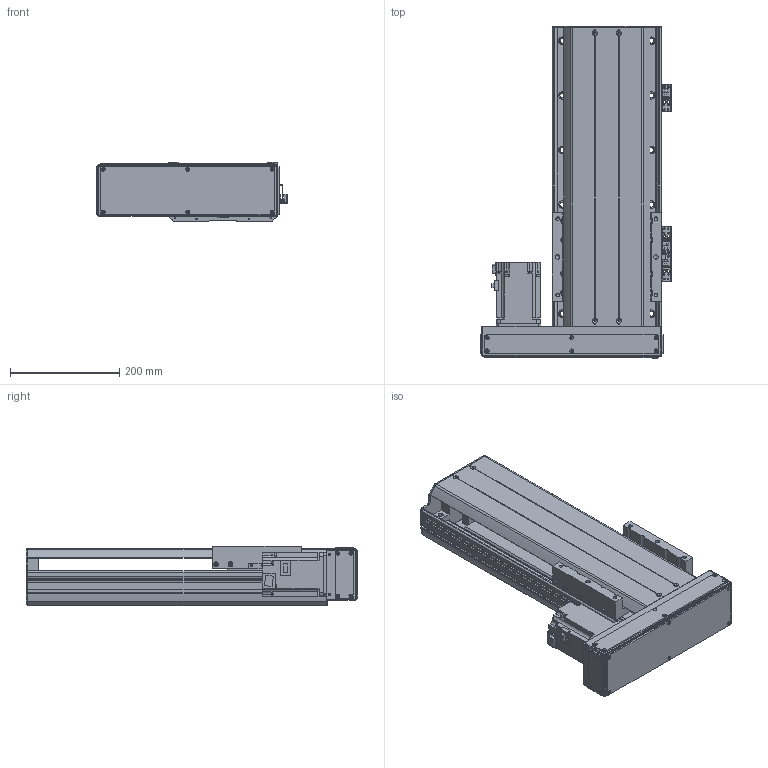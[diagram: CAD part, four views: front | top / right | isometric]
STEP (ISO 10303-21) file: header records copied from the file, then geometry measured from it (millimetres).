
FILE_DESCRIPTION(/* description */ ('MANUFACTURE'),/* implementation_level */ '2;1');
FILE_NAME(/* name */ '\\192.168.0.160\disk1\HAN SHIN Master\B-설계부문\C-표준\B-2024년\BC02-표준도면\+로봇 개선표준도면\홈페이지 표준 도면\홈페이지 최종 작업 폴더\3D\HR\HR200\HG200병렬\좌병렬\HG200-L70-N-0300-R10.stp',/* time_stamp */ '2025-01-18T10:51:17+09:00',/* author */ ('user'),/* organization */ (''),/* preprocessor_version */ 'ST-DEVELOPER v18.1',/* originating_system */ 'Autodesk Inventor 2022',/* authorisation */ 'LIP');
FILE_SCHEMA (('AUTOMOTIVE_DESIGN { 1 0 10303 214 3 1 1 }'));
Products named in the file (20): HG200-L70-N-0500-R10; HR200 S BASE-개선; HR180 FRONT BLOCK; HR180 FRONT BLOCK_1; HR200 FRONT COVER; HR120 STOPPER; HR200 SENSOR DOG; HR200 S UPCOVER; HR200 TABLE (W,N); 750W MOTOR PLATE; HG200 750W LR MOTOR PLATE-사출; hg-kr73_; 화살표; HR160 400W LR BELT COVER; HR200 ACRYL COVER -1; HR200 ACRYL COVER -1_1; HR200 ACRYL COVER -1_2; HG200 BOTTOM COVER; SENSOR BRK(EE-SX674A); EE_SX674A
Assembly tree (26 placements, depth 2):
  HG200-L70-N-0500-R10
    HR200 S BASE-개선
    HR180 FRONT BLOCK
    HR180 FRONT BLOCK_1
    HR200 FRONT COVER
    HR120 STOPPER  x2
    HR200 SENSOR DOG
    SENSOR BRK(EE-SX674A)  x3
    EE_SX674A  x3
    HR200 S UPCOVER
    HR200 TABLE (W,N)
    750W MOTOR PLATE
    HG200 750W LR MOTOR PLATE-사출
    hg-kr73_
    화살표  x2
    HR160 400W LR BELT COVER
    HR200 ACRYL COVER -1
    HR200 ACRYL COVER -1_1
    HR200 ACRYL COVER -1_2  x2
    HG200 BOTTOM COVER
Bounding box: 351 x 608 x 109 mm (x, y, z)
Volume: 5093873 mm3; surface area: 1362281.6 mm2
Topology: 26 solids, 26 shells, 3310 faces, 9311 edges, 6157 vertices
Faces by surface type: plane 2474, cylinder 712, cone 120, sphere 4
Full cylindrical faces by diameter (mm): 2.459 x50, 3 x10, 3.242 x18, 3.4 x20, 3.5 x6, 4 x6, 4.134 x10, 4.5 x14, 4.917 x30, 5 x20, 5.5 x5, 5.9 x4, 6 x6, 6.6 x28, 6.647 x22, 7 x4, 7.6 x4, 8 x4, 9 x24, 9.5 x1, 11 x28, 14 x12, 19 x1, 25 x1, 27 x1, 30 x1, 32 x1, 38 x1, 42 x2, 44.5 x1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
Entity records: 102548 total; most frequent: CARTESIAN_POINT 19327, ORIENTED_EDGE 17362, DIRECTION 16165, EDGE_CURVE 8681, LINE 7177, VECTOR 7177, VERTEX_POINT 5793, AXIS2_PLACEMENT_3D 4494
